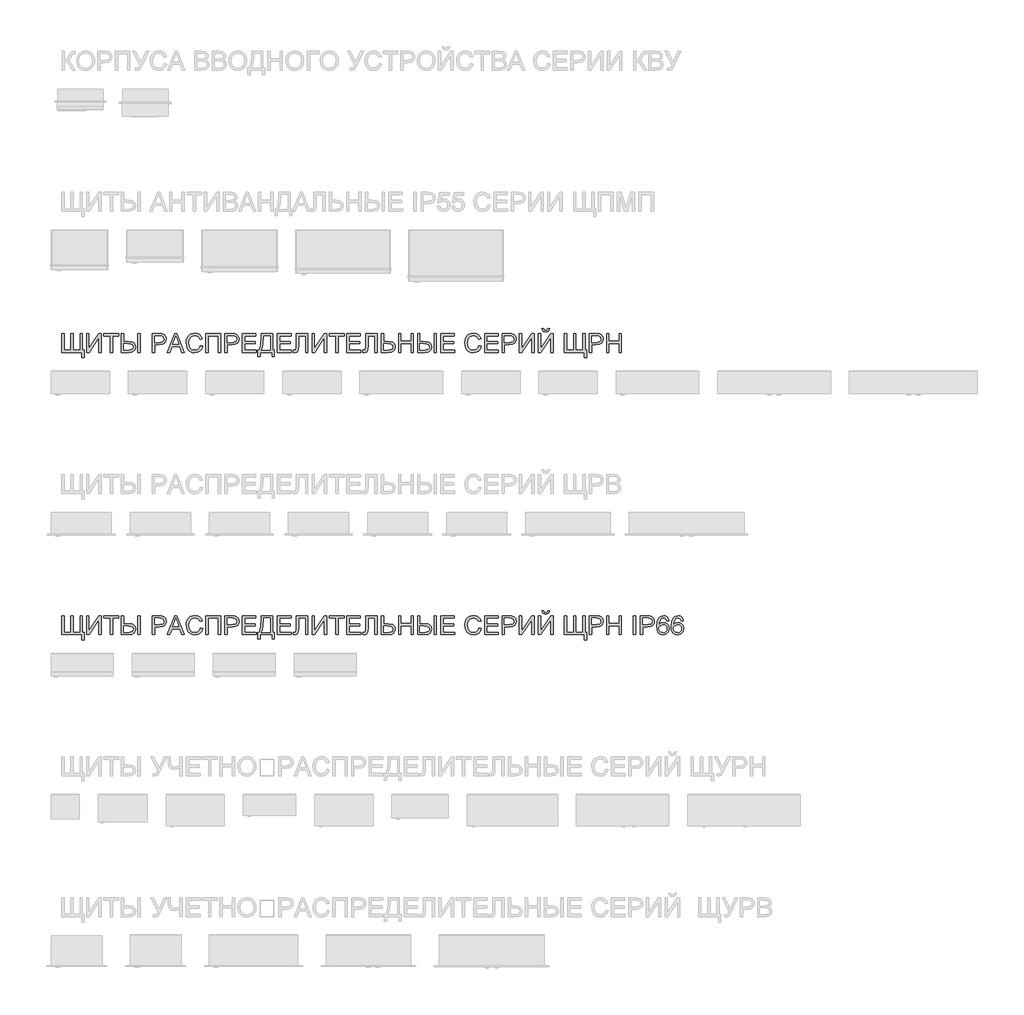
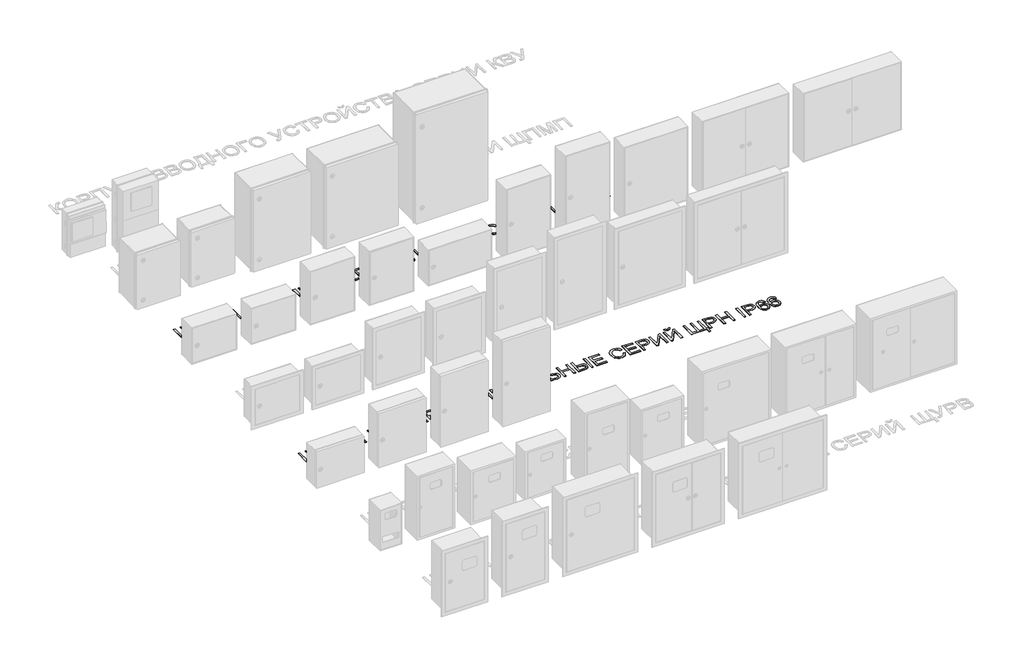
# One storey, part 12 of 25: 2 proxies.
"""IFC4 building model written with IfcOpenShell, lengths in millimetres."""

from ifc_helpers import new_model, si_unit, frame, origin, place, context, project, spatial, polyline, outline, extrude, element, save

model = new_model("IFC4")

# Units and contexts
model_context = context("Model", 3, world=origin())
ifc_project = project(units=[si_unit("LENGTHUNIT", "METRE", prefix="MILLI")], contexts=[model_context])

# Site, building, storey
site = spatial("IfcSite", under=ifc_project)
building = spatial("IfcBuilding", under=site)
storey = spatial("IfcBuildingStorey", under=building, Name="Этаж 01", Elevation=0.0)

# Proxies
placement = place(None, origin())
element("IfcBuildingElementProxy", 1, Name="Надпись на модели 1", ObjectType="Надпись на модели 1", at=placement, inside=storey, context=model_context, shape_type="SweptSolid", body=[
    extrude(outline(polyline([(-19039.6906686, 9886.6915941), (-19027.1336298, 9886.6915941), (-19027.1336298, 9798.7923228), (-18991.0321433, 9798.7923228), (-18991.0321433, 9886.6915941), (-18978.4751046, 9886.6915941), (-18978.4751046, 9798.7923228), (-18942.3736181, 9798.7923228), (-18942.3736181, 9886.6915941), (-18929.8165793, 9886.6915941), (-18929.8165793, 9798.7923228), (-18920.3988003, 9798.7923228), (-18920.3988003, 9757.9819468), (-18932.955839, 9757.9819468), (-18932.955839, 9786.235284), (-19039.6906686, 9786.235284), (-19039.6906686, 9886.6915941)])), frame((0.0, 0.0, 40.0), z_axis=(0.0, 0.0, 1.0), x_axis=(1.0, 0.0, 0.0)), (0.0, 0.0, 1.0), 2.0),
    extrude(outline(polyline([(-18907.8417615, 9886.6915941), (-18895.2847227, 9886.6915941), (-18895.2847227, 9807.1309813), (-18842.7021229, 9886.6915941), (-18829.3602692, 9886.6915941), (-18829.3602692, 9786.235284), (-18841.917308, 9786.235284), (-18841.917308, 9865.5751676), (-18894.3772805, 9786.235284), (-18907.8417615, 9786.235284), (-18907.8417615, 9886.6915941)])), frame((0.0, 0.0, 40.0), z_axis=(0.0, 0.0, 1.0), x_axis=(1.0, 0.0, 0.0)), (0.0, 0.0, 1.0), 2.0),
    extrude(outline(polyline([(-18782.2713738, 9786.235284), (-18782.2713738, 9874.1345554), (-18815.2336006, 9874.1345554), (-18815.2336006, 9886.6915941), (-18736.7521083, 9886.6915941), (-18736.7521083, 9874.1345554), (-18769.714335, 9874.1345554), (-18769.714335, 9786.235284), (-18782.2713738, 9786.235284)])), frame((0.0, 0.0, 40.0), z_axis=(0.0, 0.0, 1.0), x_axis=(1.0, 0.0, 0.0)), (0.0, 0.0, 1.0), 2.0),
    extrude(outline(polyline([(-18722.6254397, 9886.6915941), (-18710.0684009, 9886.6915941), (-18710.0684009, 9844.3115883), (-18685.935342, 9844.3115883), (-18666.2965748, 9842.1165591), (-18654.7634743, 9835.5314713), (-18649.1532739, 9826.1627432), (-18647.2832071, 9815.6167927), (-18649.2605728, 9804.6017926), (-18655.1926699, 9795.0521891), (-18666.4958443, 9788.4395103), (-18684.5864414, 9786.235284), (-18722.6254397, 9786.235284), (-18722.6254397, 9886.6915941)]), holes=[polyline([(-18710.0684009, 9798.7923228), (-18684.7090687, 9798.7923228), (-18665.7386205, 9802.777711), (-18661.3148395, 9807.9617815), (-18659.8402458, 9815.5432163), (-18663.4087012, 9825.5250811), (-18672.6302765, 9830.6509035), (-18691.5026229, 9831.7545495), (-18710.0684009, 9831.7545495), (-18710.0684009, 9798.7923228)])]), frame((0.0, 0.0, 40.0), z_axis=(0.0, 0.0, 1.0), x_axis=(1.0, 0.0, 0.0)), (0.0, 0.0, 1.0), 2.0),
    extrude(outline(polyline([(-18634.7261683, 9886.6915941), (-18622.1691295, 9886.6915941), (-18622.1691295, 9786.235284), (-18634.7261683, 9786.235284), (-18634.7261683, 9886.6915941)])), frame((0.0, 0.0, 40.0), z_axis=(0.0, 0.0, 1.0), x_axis=(1.0, 0.0, 0.0)), (0.0, 0.0, 1.0), 2.0),
    extrude(outline(polyline([(-18559.3839357, 9786.235284), (-18559.3839357, 9886.6915941), (-18522.1542778, 9886.6915941), (-18507.1446924, 9885.735101), (-18494.9432728, 9881.0384742), (-18487.03381, 9871.3263895), (-18484.0417031, 9857.6289165), (-18486.0619883, 9845.7892476), (-18492.1228442, 9835.9238788), (-18503.4566754, 9829.2652147), (-18521.2958864, 9827.04566), (-18546.8268969, 9827.04566), (-18546.8268969, 9786.235284), (-18559.3839357, 9786.235284)]), holes=[polyline([(-18546.8268969, 9839.6026988), (-18520.5601224, 9839.6026988), (-18502.0679208, 9844.2134864), (-18497.9660366, 9849.7623732), (-18496.5987418, 9857.1874581), (-18499.8238407, 9867.5862559), (-18508.2973893, 9873.2761641), (-18520.854428, 9874.1345554), (-18546.8268969, 9874.1345554), (-18546.8268969, 9839.6026988)])]), frame((0.0, 0.0, 40.0), z_axis=(0.0, 0.0, 1.0), x_axis=(1.0, 0.0, 0.0)), (0.0, 0.0, 1.0), 2.0),
    extrude(outline(polyline([(-18478.4744222, 9786.235284), (-18438.3752847, 9886.6915941), (-18427.6821814, 9886.6915941), (-18387.5830439, 9786.235284), (-18400.8513212, 9786.235284), (-18412.3537649, 9817.6278809), (-18453.7282267, 9817.6278809), (-18465.2061449, 9786.235284), (-18478.4744222, 9786.235284)]), holes=[polyline([(-18449.117439, 9830.1849197), (-18416.9400271, 9830.1849197), (-18425.9899242, 9854.8820643), (-18433.0287331, 9874.1345554), (-18439.282727, 9857.0403053), (-18449.117439, 9830.1849197)])]), frame((0.0, 0.0, 40.0), z_axis=(0.0, 0.0, 1.0), x_axis=(1.0, 0.0, 0.0)), (0.0, 0.0, 1.0), 2.0),
    extrude(outline(polyline([(-18303.5342708, 9821.944363), (-18290.977232, 9818.7070014), (-18296.7713734, 9804.0744951), (-18305.8641901, 9793.3844574), (-18317.8080922, 9786.845355), (-18332.15549, 9784.6656541), (-18346.7205513, 9786.3149918), (-18358.2873744, 9791.2630046), (-18367.1533305, 9799.3380144), (-18373.6157908, 9810.3683429), (-18378.8765034, 9837.2237285), (-18377.389647, 9851.8715633), (-18372.9290778, 9864.5205726), (-18365.7277877, 9874.7691518), (-18356.0187687, 9882.2156965), (-18344.5040623, 9886.7498421), (-18331.8857099, 9888.261224), (-18318.1177262, 9886.305318), (-18306.7348441, 9880.4376002), (-18298.0926829, 9871.0198211), (-18292.5468618, 9858.4137314), (-18305.1039006, 9855.4216246), (-18315.4045965, 9870.8604056), (-18332.3762192, 9875.7041852), (-18352.0211177, 9870.3331081), (-18363.1188912, 9855.9121339), (-18366.3194646, 9837.248254), (-18362.5302801, 9815.6167927), (-18350.7335307, 9801.7966924), (-18333.4062888, 9797.2226929), (-18322.9247176, 9798.78006), (-18314.1905859, 9803.4521614), (-18307.5963011, 9811.189946), (-18303.5342708, 9821.944363)])), frame((0.0, 0.0, 40.0), z_axis=(0.0, 0.0, 1.0), x_axis=(1.0, 0.0, 0.0)), (0.0, 0.0, 1.0), 2.0),
    extrude(outline(polyline([(-18273.7113037, 9886.6915941), (-18195.2298114, 9886.6915941), (-18195.2298114, 9786.235284), (-18207.7868501, 9786.235284), (-18207.7868501, 9874.1345554), (-18261.1542649, 9874.1345554), (-18261.1542649, 9786.235284), (-18273.7113037, 9786.235284), (-18273.7113037, 9886.6915941)])), frame((0.0, 0.0, 40.0), z_axis=(0.0, 0.0, 1.0), x_axis=(1.0, 0.0, 0.0)), (0.0, 0.0, 1.0), 2.0),
    extrude(outline(polyline([(-18173.2549935, 9786.235284), (-18173.2549935, 9886.6915941), (-18136.0253356, 9886.6915941), (-18121.0157502, 9885.735101), (-18108.8143307, 9881.0384742), (-18100.9048678, 9871.3263895), (-18097.9127609, 9857.6289165), (-18099.9330462, 9845.7892476), (-18105.9939021, 9835.9238788), (-18117.3277332, 9829.2652147), (-18135.1669443, 9827.04566), (-18160.6979548, 9827.04566), (-18160.6979548, 9786.235284), (-18173.2549935, 9786.235284)]), holes=[polyline([(-18160.6979548, 9839.6026988), (-18134.4311803, 9839.6026988), (-18115.9389787, 9844.2134864), (-18111.8370944, 9849.7623732), (-18110.4697997, 9857.1874581), (-18113.6948985, 9867.5862559), (-18122.1684471, 9873.2761641), (-18134.7254859, 9874.1345554), (-18160.6979548, 9874.1345554), (-18160.6979548, 9839.6026988)])]), frame((0.0, 0.0, 40.0), z_axis=(0.0, 0.0, 1.0), x_axis=(1.0, 0.0, 0.0)), (0.0, 0.0, 1.0), 2.0),
    extrude(outline(polyline([(-18080.6468326, 9786.235284), (-18080.6468326, 9886.6915941), (-18008.4438597, 9886.6915941), (-18008.4438597, 9874.1345554), (-18068.0897938, 9874.1345554), (-18068.0897938, 9844.3115883), (-18011.5831194, 9844.3115883), (-18011.5831194, 9831.7545495), (-18068.0897938, 9831.7545495), (-18068.0897938, 9798.7923228), (-18006.8742298, 9798.7923228), (-18006.8742298, 9786.235284), (-18080.6468326, 9786.235284)])), frame((0.0, 0.0, 40.0), z_axis=(0.0, 0.0, 1.0), x_axis=(1.0, 0.0, 0.0)), (0.0, 0.0, 1.0), 2.0),
    extrude(outline(polyline([(-17978.6208926, 9886.6915941), (-17918.9749585, 9886.6915941), (-17918.9749585, 9798.7923228), (-17909.5571794, 9798.7923228), (-17909.5571794, 9762.6908363), (-17922.1142182, 9762.6908363), (-17922.1142182, 9786.235284), (-17986.4690418, 9786.235284), (-17986.4690418, 9762.6908363), (-17999.0260806, 9762.6908363), (-17999.0260806, 9798.7923228), (-17991.1779314, 9798.7923228), (-17981.7601523, 9826.2056628), (-17978.6208926, 9872.1479926), (-17978.6208926, 9886.6915941)]), holes=[polyline([(-17931.5319972, 9874.1345554), (-17966.0638538, 9874.1345554), (-17966.0638538, 9869.0823093), (-17968.6145023, 9834.67308), (-17972.3914242, 9814.7890582), (-17978.6208926, 9798.7923228), (-17931.5319972, 9798.7923228), (-17931.5319972, 9874.1345554)])]), frame((0.0, 0.0, 40.0), z_axis=(0.0, 0.0, 1.0), x_axis=(1.0, 0.0, 0.0)), (0.0, 0.0, 1.0), 2.0),
    extrude(outline(polyline([(-17893.8608809, 9786.235284), (-17893.8608809, 9886.6915941), (-17821.657908, 9886.6915941), (-17821.657908, 9874.1345554), (-17881.3038422, 9874.1345554), (-17881.3038422, 9844.3115883), (-17824.7971677, 9844.3115883), (-17824.7971677, 9831.7545495), (-17881.3038422, 9831.7545495), (-17881.3038422, 9798.7923228), (-17820.0882782, 9798.7923228), (-17820.0882782, 9786.235284), (-17893.8608809, 9786.235284)])), frame((0.0, 0.0, 40.0), z_axis=(0.0, 0.0, 1.0), x_axis=(1.0, 0.0, 0.0)), (0.0, 0.0, 1.0), 2.0),
    extrude(outline(polyline([(-17793.4045708, 9886.6915941), (-17732.1890068, 9886.6915941), (-17732.1890068, 9786.235284), (-17744.7460456, 9786.235284), (-17744.7460456, 9874.1345554), (-17780.847532, 9874.1345554), (-17780.847532, 9822.8763307), (-17782.3067973, 9800.0063333), (-17788.4259011, 9788.7000934), (-17800.2471759, 9784.6656541), (-17810.6704991, 9786.235284), (-17809.1008692, 9798.7923228), (-17803.09213, 9797.2226929), (-17795.8203292, 9800.5949445), (-17793.4045708, 9816.475184), (-17793.4045708, 9886.6915941)])), frame((0.0, 0.0, 40.0), z_axis=(0.0, 0.0, 1.0), x_axis=(1.0, 0.0, 0.0)), (0.0, 0.0, 1.0), 2.0),
    extrude(outline(polyline([(-17710.2141889, 9886.6915941), (-17697.6571502, 9886.6915941), (-17697.6571502, 9807.1309813), (-17645.0745503, 9886.6915941), (-17631.7326966, 9886.6915941), (-17631.7326966, 9786.235284), (-17644.2897354, 9786.235284), (-17644.2897354, 9865.5751676), (-17696.7497079, 9786.235284), (-17710.2141889, 9786.235284), (-17710.2141889, 9886.6915941)])), frame((0.0, 0.0, 40.0), z_axis=(0.0, 0.0, 1.0), x_axis=(1.0, 0.0, 0.0)), (0.0, 0.0, 1.0), 2.0),
    extrude(outline(polyline([(-17584.6438013, 9786.235284), (-17584.6438013, 9874.1345554), (-17617.606028, 9874.1345554), (-17617.606028, 9886.6915941), (-17539.1245357, 9886.6915941), (-17539.1245357, 9874.1345554), (-17572.0867625, 9874.1345554), (-17572.0867625, 9786.235284), (-17584.6438013, 9786.235284)])), frame((0.0, 0.0, 40.0), z_axis=(0.0, 0.0, 1.0), x_axis=(1.0, 0.0, 0.0)), (0.0, 0.0, 1.0), 2.0),
    extrude(outline(polyline([(-17524.9978671, 9786.235284), (-17524.9978671, 9886.6915941), (-17452.7948942, 9886.6915941), (-17452.7948942, 9874.1345554), (-17512.4408283, 9874.1345554), (-17512.4408283, 9844.3115883), (-17455.9341539, 9844.3115883), (-17455.9341539, 9831.7545495), (-17512.4408283, 9831.7545495), (-17512.4408283, 9798.7923228), (-17451.2252643, 9798.7923228), (-17451.2252643, 9786.235284), (-17524.9978671, 9786.235284)])), frame((0.0, 0.0, 40.0), z_axis=(0.0, 0.0, 1.0), x_axis=(1.0, 0.0, 0.0)), (0.0, 0.0, 1.0), 2.0),
    extrude(outline(polyline([(-17424.5415569, 9886.6915941), (-17363.325993, 9886.6915941), (-17363.325993, 9786.235284), (-17375.8830317, 9786.235284), (-17375.8830317, 9874.1345554), (-17411.9845182, 9874.1345554), (-17411.9845182, 9822.8763307), (-17413.4437834, 9800.0063333), (-17419.5628873, 9788.7000934), (-17431.3841621, 9784.6656541), (-17441.8074853, 9786.235284), (-17440.2378554, 9798.7923228), (-17434.2291162, 9797.2226929), (-17426.9573154, 9800.5949445), (-17424.5415569, 9816.475184), (-17424.5415569, 9886.6915941)])), frame((0.0, 0.0, 40.0), z_axis=(0.0, 0.0, 1.0), x_axis=(1.0, 0.0, 0.0)), (0.0, 0.0, 1.0), 2.0),
    extrude(outline(polyline([(-17341.3511751, 9886.6915941), (-17328.7941363, 9886.6915941), (-17328.7941363, 9844.3115883), (-17305.2742141, 9844.3115883), (-17281.4231981, 9840.375251), (-17270.8036712, 9829.6576222), (-17267.5785723, 9815.6903691), (-17269.5160842, 9804.666172), (-17275.3286197, 9795.0889773), (-17286.4141305, 9788.4487073), (-17304.1705681, 9786.235284), (-17341.3511751, 9786.235284), (-17341.3511751, 9886.6915941)]), holes=[polyline([(-17328.7941363, 9798.7923228), (-17304.1950936, 9798.7923228), (-17291.8219958, 9800.0339245), (-17284.6728224, 9803.7587297), (-17280.1356111, 9815.73942), (-17283.4220236, 9825.4269792), (-17292.1898778, 9830.5895899), (-17310.7679186, 9831.7545495), (-17328.7941363, 9831.7545495), (-17328.7941363, 9798.7923228)])]), frame((0.0, 0.0, 40.0), z_axis=(0.0, 0.0, 1.0), x_axis=(1.0, 0.0, 0.0)), (0.0, 0.0, 1.0), 2.0),
    extrude(outline(polyline([(-17250.312644, 9786.235284), (-17250.312644, 9886.6915941), (-17237.7556053, 9886.6915941), (-17237.7556053, 9845.8812181), (-17184.3881905, 9845.8812181), (-17184.3881905, 9886.6915941), (-17171.8311517, 9886.6915941), (-17171.8311517, 9786.235284), (-17184.3881905, 9786.235284), (-17184.3881905, 9833.3241794), (-17237.7556053, 9833.3241794), (-17237.7556053, 9786.235284), (-17250.312644, 9786.235284)])), frame((0.0, 0.0, 40.0), z_axis=(0.0, 0.0, 1.0), x_axis=(1.0, 0.0, 0.0)), (0.0, 0.0, 1.0), 2.0),
    extrude(outline(polyline([(-17149.8563339, 9886.6915941), (-17137.2992951, 9886.6915941), (-17137.2992951, 9844.3115883), (-17113.1662362, 9844.3115883), (-17093.5274691, 9842.1165591), (-17081.9943685, 9835.5314713), (-17076.3841681, 9826.1627432), (-17074.5141013, 9815.6167927), (-17076.491467, 9804.6017926), (-17082.4235642, 9795.0521891), (-17093.7267385, 9788.4395103), (-17111.8173356, 9786.235284), (-17149.8563339, 9786.235284), (-17149.8563339, 9886.6915941)]), holes=[polyline([(-17137.2992951, 9798.7923228), (-17111.9399629, 9798.7923228), (-17092.9695147, 9802.777711), (-17088.5457337, 9807.9617815), (-17087.07114, 9815.5432163), (-17090.6395954, 9825.5250811), (-17099.8611707, 9830.6509035), (-17118.7335171, 9831.7545495), (-17137.2992951, 9831.7545495), (-17137.2992951, 9798.7923228)])]), frame((0.0, 0.0, 40.0), z_axis=(0.0, 0.0, 1.0), x_axis=(1.0, 0.0, 0.0)), (0.0, 0.0, 1.0), 2.0),
    extrude(outline(polyline([(-17061.9570625, 9886.6915941), (-17049.4000237, 9886.6915941), (-17049.4000237, 9786.235284), (-17061.9570625, 9786.235284), (-17061.9570625, 9886.6915941)])), frame((0.0, 0.0, 40.0), z_axis=(0.0, 0.0, 1.0), x_axis=(1.0, 0.0, 0.0)), (0.0, 0.0, 1.0), 2.0),
    extrude(outline(polyline([(-17025.855576, 9786.235284), (-17025.855576, 9886.6915941), (-16953.6526031, 9886.6915941), (-16953.6526031, 9874.1345554), (-17013.2985373, 9874.1345554), (-17013.2985373, 9844.3115883), (-16956.7918628, 9844.3115883), (-16956.7918628, 9831.7545495), (-17013.2985373, 9831.7545495), (-17013.2985373, 9798.7923228), (-16952.0829733, 9798.7923228), (-16952.0829733, 9786.235284), (-17025.855576, 9786.235284)])), frame((0.0, 0.0, 40.0), z_axis=(0.0, 0.0, 1.0), x_axis=(1.0, 0.0, 0.0)), (0.0, 0.0, 1.0), 2.0),
    extrude(outline(polyline([(-16823.3733259, 9821.944363), (-16810.8162871, 9818.7070014), (-16816.6104286, 9804.0744951), (-16825.7032452, 9793.3844574), (-16837.6471473, 9786.845355), (-16851.9945451, 9784.6656541), (-16866.5596064, 9786.3149918), (-16878.1264295, 9791.2630046), (-16886.9923856, 9799.3380144), (-16893.454846, 9810.3683429), (-16898.7155585, 9837.2237285), (-16897.2287021, 9851.8715633), (-16892.7681329, 9864.5205726), (-16885.5668429, 9874.7691518), (-16875.8578239, 9882.2156965), (-16864.3431174, 9886.7498421), (-16851.724765, 9888.261224), (-16837.9567813, 9886.305318), (-16826.5738993, 9880.4376002), (-16817.9317381, 9871.0198211), (-16812.385917, 9858.4137314), (-16824.9429557, 9855.4216246), (-16835.2436516, 9870.8604056), (-16852.2152743, 9875.7041852), (-16871.8601729, 9870.3331081), (-16882.9579464, 9855.9121339), (-16886.1585197, 9837.248254), (-16882.3693352, 9815.6167927), (-16870.5725859, 9801.7966924), (-16853.2453439, 9797.2226929), (-16842.7637727, 9798.78006), (-16834.029641, 9803.4521614), (-16827.4353563, 9811.189946), (-16823.3733259, 9821.944363)])), frame((0.0, 0.0, 40.0), z_axis=(0.0, 0.0, 1.0), x_axis=(1.0, 0.0, 0.0)), (0.0, 0.0, 1.0), 2.0),
    extrude(outline(polyline([(-16793.5503588, 9786.235284), (-16793.5503588, 9886.6915941), (-16721.3473859, 9886.6915941), (-16721.3473859, 9874.1345554), (-16780.9933201, 9874.1345554), (-16780.9933201, 9844.3115883), (-16724.4866456, 9844.3115883), (-16724.4866456, 9831.7545495), (-16780.9933201, 9831.7545495), (-16780.9933201, 9798.7923228), (-16719.7777561, 9798.7923228), (-16719.7777561, 9786.235284), (-16793.5503588, 9786.235284)])), frame((0.0, 0.0, 40.0), z_axis=(0.0, 0.0, 1.0), x_axis=(1.0, 0.0, 0.0)), (0.0, 0.0, 1.0), 2.0),
    extrude(outline(polyline([(-16700.9421979, 9786.235284), (-16700.9421979, 9886.6915941), (-16663.71254, 9886.6915941), (-16648.7029546, 9885.735101), (-16636.5015351, 9881.0384742), (-16628.5920722, 9871.3263895), (-16625.5999653, 9857.6289165), (-16627.6202506, 9845.7892476), (-16633.6811065, 9835.9238788), (-16645.0149376, 9829.2652147), (-16662.8541487, 9827.04566), (-16688.3851591, 9827.04566), (-16688.3851591, 9786.235284), (-16700.9421979, 9786.235284)]), holes=[polyline([(-16688.3851591, 9839.6026988), (-16662.1183847, 9839.6026988), (-16643.6261831, 9844.2134864), (-16639.5242988, 9849.7623732), (-16638.1570041, 9857.1874581), (-16641.3821029, 9867.5862559), (-16649.8556515, 9873.2761641), (-16662.4126903, 9874.1345554), (-16688.3851591, 9874.1345554), (-16688.3851591, 9839.6026988)])]), frame((0.0, 0.0, 40.0), z_axis=(0.0, 0.0, 1.0), x_axis=(1.0, 0.0, 0.0)), (0.0, 0.0, 1.0), 2.0),
    extrude(outline(polyline([(-16608.334037, 9886.6915941), (-16595.7769982, 9886.6915941), (-16595.7769982, 9807.1309813), (-16543.1943984, 9886.6915941), (-16529.8525447, 9886.6915941), (-16529.8525447, 9786.235284), (-16542.4095834, 9786.235284), (-16542.4095834, 9865.5751676), (-16594.869556, 9786.235284), (-16608.334037, 9786.235284), (-16608.334037, 9886.6915941)])), frame((0.0, 0.0, 40.0), z_axis=(0.0, 0.0, 1.0), x_axis=(1.0, 0.0, 0.0)), (0.0, 0.0, 1.0), 2.0),
    extrude(outline(polyline([(-16507.8777268, 9886.6915941), (-16495.3206881, 9886.6915941), (-16495.3206881, 9807.1309813), (-16442.7380882, 9886.6915941), (-16429.3962345, 9886.6915941), (-16429.3962345, 9786.235284), (-16441.9532733, 9786.235284), (-16441.9532733, 9865.5751676), (-16494.4132458, 9786.235284), (-16507.8777268, 9786.235284), (-16507.8777268, 9886.6915941)])), frame((0.0, 0.0, 40.0), z_axis=(0.0, 0.0, 1.0), x_axis=(1.0, 0.0, 0.0)), (0.0, 0.0, 1.0), 2.0),
    extrude(outline(polyline([(-16457.6495718, 9911.8056717), (-16448.2317927, 9911.8056717), (-16454.3263711, 9897.8384186), (-16467.8521658, 9892.9701135), (-16482.4938692, 9897.8016304), (-16489.0421687, 9911.8056717), (-16479.6243896, 9911.8056717), (-16476.0927225, 9904.7300746), (-16468.9803372, 9902.3878926), (-16461.1812389, 9904.6564982), (-16457.6495718, 9911.8056717)])), frame((0.0, 0.0, 40.0), z_axis=(0.0, 0.0, 1.0), x_axis=(1.0, 0.0, 0.0)), (0.0, 0.0, 1.0), 2.0),
    extrude(outline(polyline([(-16369.7503004, 9886.6915941), (-16357.1932616, 9886.6915941), (-16357.1932616, 9798.7923228), (-16321.0917752, 9798.7923228), (-16321.0917752, 9886.6915941), (-16308.5347364, 9886.6915941), (-16308.5347364, 9798.7923228), (-16272.4332499, 9798.7923228), (-16272.4332499, 9886.6915941), (-16259.8762112, 9886.6915941), (-16259.8762112, 9798.7923228), (-16250.4584321, 9798.7923228), (-16250.4584321, 9757.9819468), (-16263.0154708, 9757.9819468), (-16263.0154708, 9786.235284), (-16369.7503004, 9786.235284), (-16369.7503004, 9886.6915941)])), frame((0.0, 0.0, 40.0), z_axis=(0.0, 0.0, 1.0), x_axis=(1.0, 0.0, 0.0)), (0.0, 0.0, 1.0), 2.0),
    extrude(outline(polyline([(-16237.9013933, 9786.235284), (-16237.9013933, 9886.6915941), (-16200.6717354, 9886.6915941), (-16185.66215, 9885.735101), (-16173.4607305, 9881.0384742), (-16165.5512676, 9871.3263895), (-16162.5591607, 9857.6289165), (-16164.579446, 9845.7892476), (-16170.6403019, 9835.9238788), (-16181.974133, 9829.2652147), (-16199.8133441, 9827.04566), (-16225.3443545, 9827.04566), (-16225.3443545, 9786.235284), (-16237.9013933, 9786.235284)]), holes=[polyline([(-16225.3443545, 9839.6026988), (-16199.0775801, 9839.6026988), (-16180.5853785, 9844.2134864), (-16176.4834942, 9849.7623732), (-16175.1161995, 9857.1874581), (-16178.3412983, 9867.5862559), (-16186.8148469, 9873.2761641), (-16199.3718857, 9874.1345554), (-16225.3443545, 9874.1345554), (-16225.3443545, 9839.6026988)])]), frame((0.0, 0.0, 40.0), z_axis=(0.0, 0.0, 1.0), x_axis=(1.0, 0.0, 0.0)), (0.0, 0.0, 1.0), 2.0),
    extrude(outline(polyline([(-16145.2932324, 9786.235284), (-16145.2932324, 9886.6915941), (-16132.7361936, 9886.6915941), (-16132.7361936, 9845.8812181), (-16079.3687789, 9845.8812181), (-16079.3687789, 9886.6915941), (-16066.8117401, 9886.6915941), (-16066.8117401, 9786.235284), (-16079.3687789, 9786.235284), (-16079.3687789, 9833.3241794), (-16132.7361936, 9833.3241794), (-16132.7361936, 9786.235284), (-16145.2932324, 9786.235284)])), frame((0.0, 0.0, 40.0), z_axis=(0.0, 0.0, 1.0), x_axis=(1.0, 0.0, 0.0)), (0.0, 0.0, 1.0), 2.0),
])
element("IfcBuildingElementProxy", 2, Name="Надпись на модели 1", ObjectType="Надпись на модели 1", at=placement, inside=storey, context=model_context, shape_type="SweptSolid", body=[
    extrude(outline(polyline([(-19039.6906686, 8386.6915941), (-19027.1336298, 8386.6915941), (-19027.1336298, 8298.7923228), (-18991.0321433, 8298.7923228), (-18991.0321433, 8386.6915941), (-18978.4751046, 8386.6915941), (-18978.4751046, 8298.7923228), (-18942.3736181, 8298.7923228), (-18942.3736181, 8386.6915941), (-18929.8165793, 8386.6915941), (-18929.8165793, 8298.7923228), (-18920.3988003, 8298.7923228), (-18920.3988003, 8257.9819468), (-18932.955839, 8257.9819468), (-18932.955839, 8286.235284), (-19039.6906686, 8286.235284), (-19039.6906686, 8386.6915941)])), frame((0.0, 0.0, 40.0), z_axis=(0.0, 0.0, 1.0), x_axis=(1.0, 0.0, 0.0)), (0.0, 0.0, 1.0), 2.0),
    extrude(outline(polyline([(-18907.8417615, 8386.6915941), (-18895.2847227, 8386.6915941), (-18895.2847227, 8307.1309813), (-18842.7021229, 8386.6915941), (-18829.3602692, 8386.6915941), (-18829.3602692, 8286.235284), (-18841.917308, 8286.235284), (-18841.917308, 8365.5751676), (-18894.3772805, 8286.235284), (-18907.8417615, 8286.235284), (-18907.8417615, 8386.6915941)])), frame((0.0, 0.0, 40.0), z_axis=(0.0, 0.0, 1.0), x_axis=(1.0, 0.0, 0.0)), (0.0, 0.0, 1.0), 2.0),
    extrude(outline(polyline([(-18782.2713738, 8286.235284), (-18782.2713738, 8374.1345554), (-18815.2336006, 8374.1345554), (-18815.2336006, 8386.6915941), (-18736.7521083, 8386.6915941), (-18736.7521083, 8374.1345554), (-18769.714335, 8374.1345554), (-18769.714335, 8286.235284), (-18782.2713738, 8286.235284)])), frame((0.0, 0.0, 40.0), z_axis=(0.0, 0.0, 1.0), x_axis=(1.0, 0.0, 0.0)), (0.0, 0.0, 1.0), 2.0),
    extrude(outline(polyline([(-18722.6254397, 8386.6915941), (-18710.0684009, 8386.6915941), (-18710.0684009, 8344.3115883), (-18685.935342, 8344.3115883), (-18666.2965748, 8342.1165591), (-18654.7634743, 8335.5314713), (-18649.1532739, 8326.1627432), (-18647.2832071, 8315.6167927), (-18649.2605728, 8304.6017926), (-18655.1926699, 8295.0521891), (-18666.4958443, 8288.4395103), (-18684.5864414, 8286.235284), (-18722.6254397, 8286.235284), (-18722.6254397, 8386.6915941)]), holes=[polyline([(-18710.0684009, 8298.7923228), (-18684.7090687, 8298.7923228), (-18665.7386205, 8302.777711), (-18661.3148395, 8307.9617815), (-18659.8402458, 8315.5432163), (-18663.4087012, 8325.5250811), (-18672.6302765, 8330.6509035), (-18691.5026229, 8331.7545495), (-18710.0684009, 8331.7545495), (-18710.0684009, 8298.7923228)])]), frame((0.0, 0.0, 40.0), z_axis=(0.0, 0.0, 1.0), x_axis=(1.0, 0.0, 0.0)), (0.0, 0.0, 1.0), 2.0),
    extrude(outline(polyline([(-18634.7261683, 8386.6915941), (-18622.1691295, 8386.6915941), (-18622.1691295, 8286.235284), (-18634.7261683, 8286.235284), (-18634.7261683, 8386.6915941)])), frame((0.0, 0.0, 40.0), z_axis=(0.0, 0.0, 1.0), x_axis=(1.0, 0.0, 0.0)), (0.0, 0.0, 1.0), 2.0),
    extrude(outline(polyline([(-18559.3839357, 8286.235284), (-18559.3839357, 8386.6915941), (-18522.1542778, 8386.6915941), (-18507.1446924, 8385.735101), (-18494.9432728, 8381.0384742), (-18487.03381, 8371.3263895), (-18484.0417031, 8357.6289165), (-18486.0619883, 8345.7892476), (-18492.1228442, 8335.9238788), (-18503.4566754, 8329.2652147), (-18521.2958864, 8327.04566), (-18546.8268969, 8327.04566), (-18546.8268969, 8286.235284), (-18559.3839357, 8286.235284)]), holes=[polyline([(-18546.8268969, 8339.6026988), (-18520.5601224, 8339.6026988), (-18502.0679208, 8344.2134864), (-18497.9660366, 8349.7623732), (-18496.5987418, 8357.1874581), (-18499.8238407, 8367.5862559), (-18508.2973893, 8373.2761641), (-18520.854428, 8374.1345554), (-18546.8268969, 8374.1345554), (-18546.8268969, 8339.6026988)])]), frame((0.0, 0.0, 40.0), z_axis=(0.0, 0.0, 1.0), x_axis=(1.0, 0.0, 0.0)), (0.0, 0.0, 1.0), 2.0),
    extrude(outline(polyline([(-18478.4744222, 8286.235284), (-18438.3752847, 8386.6915941), (-18427.6821814, 8386.6915941), (-18387.5830439, 8286.235284), (-18400.8513212, 8286.235284), (-18412.3537649, 8317.6278809), (-18453.7282267, 8317.6278809), (-18465.2061449, 8286.235284), (-18478.4744222, 8286.235284)]), holes=[polyline([(-18449.117439, 8330.1849197), (-18416.9400271, 8330.1849197), (-18425.9899242, 8354.8820643), (-18433.0287331, 8374.1345554), (-18439.282727, 8357.0403053), (-18449.117439, 8330.1849197)])]), frame((0.0, 0.0, 40.0), z_axis=(0.0, 0.0, 1.0), x_axis=(1.0, 0.0, 0.0)), (0.0, 0.0, 1.0), 2.0),
    extrude(outline(polyline([(-18303.5342708, 8321.944363), (-18290.977232, 8318.7070014), (-18296.7713734, 8304.0744951), (-18305.8641901, 8293.3844574), (-18317.8080922, 8286.845355), (-18332.15549, 8284.6656541), (-18346.7205513, 8286.3149918), (-18358.2873744, 8291.2630046), (-18367.1533305, 8299.3380144), (-18373.6157908, 8310.3683429), (-18378.8765034, 8337.2237285), (-18377.389647, 8351.8715633), (-18372.9290778, 8364.5205726), (-18365.7277877, 8374.7691518), (-18356.0187687, 8382.2156965), (-18344.5040623, 8386.7498421), (-18331.8857099, 8388.261224), (-18318.1177262, 8386.305318), (-18306.7348441, 8380.4376002), (-18298.0926829, 8371.0198211), (-18292.5468618, 8358.4137314), (-18305.1039006, 8355.4216246), (-18315.4045965, 8370.8604056), (-18332.3762192, 8375.7041852), (-18352.0211177, 8370.3331081), (-18363.1188912, 8355.9121339), (-18366.3194646, 8337.248254), (-18362.5302801, 8315.6167927), (-18350.7335307, 8301.7966924), (-18333.4062888, 8297.2226929), (-18322.9247176, 8298.78006), (-18314.1905859, 8303.4521614), (-18307.5963011, 8311.189946), (-18303.5342708, 8321.944363)])), frame((0.0, 0.0, 40.0), z_axis=(0.0, 0.0, 1.0), x_axis=(1.0, 0.0, 0.0)), (0.0, 0.0, 1.0), 2.0),
    extrude(outline(polyline([(-18273.7113037, 8386.6915941), (-18195.2298114, 8386.6915941), (-18195.2298114, 8286.235284), (-18207.7868501, 8286.235284), (-18207.7868501, 8374.1345554), (-18261.1542649, 8374.1345554), (-18261.1542649, 8286.235284), (-18273.7113037, 8286.235284), (-18273.7113037, 8386.6915941)])), frame((0.0, 0.0, 40.0), z_axis=(0.0, 0.0, 1.0), x_axis=(1.0, 0.0, 0.0)), (0.0, 0.0, 1.0), 2.0),
    extrude(outline(polyline([(-18173.2549935, 8286.235284), (-18173.2549935, 8386.6915941), (-18136.0253356, 8386.6915941), (-18121.0157502, 8385.735101), (-18108.8143307, 8381.0384742), (-18100.9048678, 8371.3263895), (-18097.9127609, 8357.6289165), (-18099.9330462, 8345.7892476), (-18105.9939021, 8335.9238788), (-18117.3277332, 8329.2652147), (-18135.1669443, 8327.04566), (-18160.6979548, 8327.04566), (-18160.6979548, 8286.235284), (-18173.2549935, 8286.235284)]), holes=[polyline([(-18160.6979548, 8339.6026988), (-18134.4311803, 8339.6026988), (-18115.9389787, 8344.2134864), (-18111.8370944, 8349.7623732), (-18110.4697997, 8357.1874581), (-18113.6948985, 8367.5862559), (-18122.1684471, 8373.2761641), (-18134.7254859, 8374.1345554), (-18160.6979548, 8374.1345554), (-18160.6979548, 8339.6026988)])]), frame((0.0, 0.0, 40.0), z_axis=(0.0, 0.0, 1.0), x_axis=(1.0, 0.0, 0.0)), (0.0, 0.0, 1.0), 2.0),
    extrude(outline(polyline([(-18080.6468326, 8286.235284), (-18080.6468326, 8386.6915941), (-18008.4438597, 8386.6915941), (-18008.4438597, 8374.1345554), (-18068.0897938, 8374.1345554), (-18068.0897938, 8344.3115883), (-18011.5831194, 8344.3115883), (-18011.5831194, 8331.7545495), (-18068.0897938, 8331.7545495), (-18068.0897938, 8298.7923228), (-18006.8742298, 8298.7923228), (-18006.8742298, 8286.235284), (-18080.6468326, 8286.235284)])), frame((0.0, 0.0, 40.0), z_axis=(0.0, 0.0, 1.0), x_axis=(1.0, 0.0, 0.0)), (0.0, 0.0, 1.0), 2.0),
    extrude(outline(polyline([(-17978.6208926, 8386.6915941), (-17918.9749585, 8386.6915941), (-17918.9749585, 8298.7923228), (-17909.5571794, 8298.7923228), (-17909.5571794, 8262.6908363), (-17922.1142182, 8262.6908363), (-17922.1142182, 8286.235284), (-17986.4690418, 8286.235284), (-17986.4690418, 8262.6908363), (-17999.0260806, 8262.6908363), (-17999.0260806, 8298.7923228), (-17991.1779314, 8298.7923228), (-17981.7601523, 8326.2056628), (-17978.6208926, 8372.1479926), (-17978.6208926, 8386.6915941)]), holes=[polyline([(-17931.5319972, 8374.1345554), (-17966.0638538, 8374.1345554), (-17966.0638538, 8369.0823093), (-17968.6145023, 8334.67308), (-17972.3914242, 8314.7890582), (-17978.6208926, 8298.7923228), (-17931.5319972, 8298.7923228), (-17931.5319972, 8374.1345554)])]), frame((0.0, 0.0, 40.0), z_axis=(0.0, 0.0, 1.0), x_axis=(1.0, 0.0, 0.0)), (0.0, 0.0, 1.0), 2.0),
    extrude(outline(polyline([(-17893.8608809, 8286.235284), (-17893.8608809, 8386.6915941), (-17821.657908, 8386.6915941), (-17821.657908, 8374.1345554), (-17881.3038422, 8374.1345554), (-17881.3038422, 8344.3115883), (-17824.7971677, 8344.3115883), (-17824.7971677, 8331.7545495), (-17881.3038422, 8331.7545495), (-17881.3038422, 8298.7923228), (-17820.0882782, 8298.7923228), (-17820.0882782, 8286.235284), (-17893.8608809, 8286.235284)])), frame((0.0, 0.0, 40.0), z_axis=(0.0, 0.0, 1.0), x_axis=(1.0, 0.0, 0.0)), (0.0, 0.0, 1.0), 2.0),
    extrude(outline(polyline([(-17793.4045708, 8386.6915941), (-17732.1890068, 8386.6915941), (-17732.1890068, 8286.235284), (-17744.7460456, 8286.235284), (-17744.7460456, 8374.1345554), (-17780.847532, 8374.1345554), (-17780.847532, 8322.8763307), (-17782.3067973, 8300.0063333), (-17788.4259011, 8288.7000934), (-17800.2471759, 8284.6656541), (-17810.6704991, 8286.235284), (-17809.1008692, 8298.7923228), (-17803.09213, 8297.2226929), (-17795.8203292, 8300.5949445), (-17793.4045708, 8316.475184), (-17793.4045708, 8386.6915941)])), frame((0.0, 0.0, 40.0), z_axis=(0.0, 0.0, 1.0), x_axis=(1.0, 0.0, 0.0)), (0.0, 0.0, 1.0), 2.0),
    extrude(outline(polyline([(-17710.2141889, 8386.6915941), (-17697.6571502, 8386.6915941), (-17697.6571502, 8307.1309813), (-17645.0745503, 8386.6915941), (-17631.7326966, 8386.6915941), (-17631.7326966, 8286.235284), (-17644.2897354, 8286.235284), (-17644.2897354, 8365.5751676), (-17696.7497079, 8286.235284), (-17710.2141889, 8286.235284), (-17710.2141889, 8386.6915941)])), frame((0.0, 0.0, 40.0), z_axis=(0.0, 0.0, 1.0), x_axis=(1.0, 0.0, 0.0)), (0.0, 0.0, 1.0), 2.0),
    extrude(outline(polyline([(-17584.6438013, 8286.235284), (-17584.6438013, 8374.1345554), (-17617.606028, 8374.1345554), (-17617.606028, 8386.6915941), (-17539.1245357, 8386.6915941), (-17539.1245357, 8374.1345554), (-17572.0867625, 8374.1345554), (-17572.0867625, 8286.235284), (-17584.6438013, 8286.235284)])), frame((0.0, 0.0, 40.0), z_axis=(0.0, 0.0, 1.0), x_axis=(1.0, 0.0, 0.0)), (0.0, 0.0, 1.0), 2.0),
    extrude(outline(polyline([(-17524.9978671, 8286.235284), (-17524.9978671, 8386.6915941), (-17452.7948942, 8386.6915941), (-17452.7948942, 8374.1345554), (-17512.4408283, 8374.1345554), (-17512.4408283, 8344.3115883), (-17455.9341539, 8344.3115883), (-17455.9341539, 8331.7545495), (-17512.4408283, 8331.7545495), (-17512.4408283, 8298.7923228), (-17451.2252643, 8298.7923228), (-17451.2252643, 8286.235284), (-17524.9978671, 8286.235284)])), frame((0.0, 0.0, 40.0), z_axis=(0.0, 0.0, 1.0), x_axis=(1.0, 0.0, 0.0)), (0.0, 0.0, 1.0), 2.0),
    extrude(outline(polyline([(-17424.5415569, 8386.6915941), (-17363.325993, 8386.6915941), (-17363.325993, 8286.235284), (-17375.8830317, 8286.235284), (-17375.8830317, 8374.1345554), (-17411.9845182, 8374.1345554), (-17411.9845182, 8322.8763307), (-17413.4437834, 8300.0063333), (-17419.5628873, 8288.7000934), (-17431.3841621, 8284.6656541), (-17441.8074853, 8286.235284), (-17440.2378554, 8298.7923228), (-17434.2291162, 8297.2226929), (-17426.9573154, 8300.5949445), (-17424.5415569, 8316.475184), (-17424.5415569, 8386.6915941)])), frame((0.0, 0.0, 40.0), z_axis=(0.0, 0.0, 1.0), x_axis=(1.0, 0.0, 0.0)), (0.0, 0.0, 1.0), 2.0),
    extrude(outline(polyline([(-17341.3511751, 8386.6915941), (-17328.7941363, 8386.6915941), (-17328.7941363, 8344.3115883), (-17305.2742141, 8344.3115883), (-17281.4231981, 8340.375251), (-17270.8036712, 8329.6576222), (-17267.5785723, 8315.6903691), (-17269.5160842, 8304.666172), (-17275.3286197, 8295.0889773), (-17286.4141305, 8288.4487073), (-17304.1705681, 8286.235284), (-17341.3511751, 8286.235284), (-17341.3511751, 8386.6915941)]), holes=[polyline([(-17328.7941363, 8298.7923228), (-17304.1950936, 8298.7923228), (-17291.8219958, 8300.0339245), (-17284.6728224, 8303.7587297), (-17280.1356111, 8315.73942), (-17283.4220236, 8325.4269792), (-17292.1898778, 8330.5895899), (-17310.7679186, 8331.7545495), (-17328.7941363, 8331.7545495), (-17328.7941363, 8298.7923228)])]), frame((0.0, 0.0, 40.0), z_axis=(0.0, 0.0, 1.0), x_axis=(1.0, 0.0, 0.0)), (0.0, 0.0, 1.0), 2.0),
    extrude(outline(polyline([(-17250.312644, 8286.235284), (-17250.312644, 8386.6915941), (-17237.7556053, 8386.6915941), (-17237.7556053, 8345.8812181), (-17184.3881905, 8345.8812181), (-17184.3881905, 8386.6915941), (-17171.8311517, 8386.6915941), (-17171.8311517, 8286.235284), (-17184.3881905, 8286.235284), (-17184.3881905, 8333.3241794), (-17237.7556053, 8333.3241794), (-17237.7556053, 8286.235284), (-17250.312644, 8286.235284)])), frame((0.0, 0.0, 40.0), z_axis=(0.0, 0.0, 1.0), x_axis=(1.0, 0.0, 0.0)), (0.0, 0.0, 1.0), 2.0),
    extrude(outline(polyline([(-17149.8563339, 8386.6915941), (-17137.2992951, 8386.6915941), (-17137.2992951, 8344.3115883), (-17113.1662362, 8344.3115883), (-17093.5274691, 8342.1165591), (-17081.9943685, 8335.5314713), (-17076.3841681, 8326.1627432), (-17074.5141013, 8315.6167927), (-17076.491467, 8304.6017926), (-17082.4235642, 8295.0521891), (-17093.7267385, 8288.4395103), (-17111.8173356, 8286.235284), (-17149.8563339, 8286.235284), (-17149.8563339, 8386.6915941)]), holes=[polyline([(-17137.2992951, 8298.7923228), (-17111.9399629, 8298.7923228), (-17092.9695147, 8302.777711), (-17088.5457337, 8307.9617815), (-17087.07114, 8315.5432163), (-17090.6395954, 8325.5250811), (-17099.8611707, 8330.6509035), (-17118.7335171, 8331.7545495), (-17137.2992951, 8331.7545495), (-17137.2992951, 8298.7923228)])]), frame((0.0, 0.0, 40.0), z_axis=(0.0, 0.0, 1.0), x_axis=(1.0, 0.0, 0.0)), (0.0, 0.0, 1.0), 2.0),
    extrude(outline(polyline([(-17061.9570625, 8386.6915941), (-17049.4000237, 8386.6915941), (-17049.4000237, 8286.235284), (-17061.9570625, 8286.235284), (-17061.9570625, 8386.6915941)])), frame((0.0, 0.0, 40.0), z_axis=(0.0, 0.0, 1.0), x_axis=(1.0, 0.0, 0.0)), (0.0, 0.0, 1.0), 2.0),
    extrude(outline(polyline([(-17025.855576, 8286.235284), (-17025.855576, 8386.6915941), (-16953.6526031, 8386.6915941), (-16953.6526031, 8374.1345554), (-17013.2985373, 8374.1345554), (-17013.2985373, 8344.3115883), (-16956.7918628, 8344.3115883), (-16956.7918628, 8331.7545495), (-17013.2985373, 8331.7545495), (-17013.2985373, 8298.7923228), (-16952.0829733, 8298.7923228), (-16952.0829733, 8286.235284), (-17025.855576, 8286.235284)])), frame((0.0, 0.0, 40.0), z_axis=(0.0, 0.0, 1.0), x_axis=(1.0, 0.0, 0.0)), (0.0, 0.0, 1.0), 2.0),
    extrude(outline(polyline([(-16823.3733259, 8321.944363), (-16810.8162871, 8318.7070014), (-16816.6104286, 8304.0744951), (-16825.7032452, 8293.3844574), (-16837.6471473, 8286.845355), (-16851.9945451, 8284.6656541), (-16866.5596064, 8286.3149918), (-16878.1264295, 8291.2630046), (-16886.9923856, 8299.3380144), (-16893.454846, 8310.3683429), (-16898.7155585, 8337.2237285), (-16897.2287021, 8351.8715633), (-16892.7681329, 8364.5205726), (-16885.5668429, 8374.7691518), (-16875.8578239, 8382.2156965), (-16864.3431174, 8386.7498421), (-16851.724765, 8388.261224), (-16837.9567813, 8386.305318), (-16826.5738993, 8380.4376002), (-16817.9317381, 8371.0198211), (-16812.385917, 8358.4137314), (-16824.9429557, 8355.4216246), (-16835.2436516, 8370.8604056), (-16852.2152743, 8375.7041852), (-16871.8601729, 8370.3331081), (-16882.9579464, 8355.9121339), (-16886.1585197, 8337.248254), (-16882.3693352, 8315.6167927), (-16870.5725859, 8301.7966924), (-16853.2453439, 8297.2226929), (-16842.7637727, 8298.78006), (-16834.029641, 8303.4521614), (-16827.4353563, 8311.189946), (-16823.3733259, 8321.944363)])), frame((0.0, 0.0, 40.0), z_axis=(0.0, 0.0, 1.0), x_axis=(1.0, 0.0, 0.0)), (0.0, 0.0, 1.0), 2.0),
    extrude(outline(polyline([(-16793.5503588, 8286.235284), (-16793.5503588, 8386.6915941), (-16721.3473859, 8386.6915941), (-16721.3473859, 8374.1345554), (-16780.9933201, 8374.1345554), (-16780.9933201, 8344.3115883), (-16724.4866456, 8344.3115883), (-16724.4866456, 8331.7545495), (-16780.9933201, 8331.7545495), (-16780.9933201, 8298.7923228), (-16719.7777561, 8298.7923228), (-16719.7777561, 8286.235284), (-16793.5503588, 8286.235284)])), frame((0.0, 0.0, 40.0), z_axis=(0.0, 0.0, 1.0), x_axis=(1.0, 0.0, 0.0)), (0.0, 0.0, 1.0), 2.0),
    extrude(outline(polyline([(-16700.9421979, 8286.235284), (-16700.9421979, 8386.6915941), (-16663.71254, 8386.6915941), (-16648.7029546, 8385.735101), (-16636.5015351, 8381.0384742), (-16628.5920722, 8371.3263895), (-16625.5999653, 8357.6289165), (-16627.6202506, 8345.7892476), (-16633.6811065, 8335.9238788), (-16645.0149376, 8329.2652147), (-16662.8541487, 8327.04566), (-16688.3851591, 8327.04566), (-16688.3851591, 8286.235284), (-16700.9421979, 8286.235284)]), holes=[polyline([(-16688.3851591, 8339.6026988), (-16662.1183847, 8339.6026988), (-16643.6261831, 8344.2134864), (-16639.5242988, 8349.7623732), (-16638.1570041, 8357.1874581), (-16641.3821029, 8367.5862559), (-16649.8556515, 8373.2761641), (-16662.4126903, 8374.1345554), (-16688.3851591, 8374.1345554), (-16688.3851591, 8339.6026988)])]), frame((0.0, 0.0, 40.0), z_axis=(0.0, 0.0, 1.0), x_axis=(1.0, 0.0, 0.0)), (0.0, 0.0, 1.0), 2.0),
    extrude(outline(polyline([(-16608.334037, 8386.6915941), (-16595.7769982, 8386.6915941), (-16595.7769982, 8307.1309813), (-16543.1943984, 8386.6915941), (-16529.8525447, 8386.6915941), (-16529.8525447, 8286.235284), (-16542.4095834, 8286.235284), (-16542.4095834, 8365.5751676), (-16594.869556, 8286.235284), (-16608.334037, 8286.235284), (-16608.334037, 8386.6915941)])), frame((0.0, 0.0, 40.0), z_axis=(0.0, 0.0, 1.0), x_axis=(1.0, 0.0, 0.0)), (0.0, 0.0, 1.0), 2.0),
    extrude(outline(polyline([(-16507.8777268, 8386.6915941), (-16495.3206881, 8386.6915941), (-16495.3206881, 8307.1309813), (-16442.7380882, 8386.6915941), (-16429.3962345, 8386.6915941), (-16429.3962345, 8286.235284), (-16441.9532733, 8286.235284), (-16441.9532733, 8365.5751676), (-16494.4132458, 8286.235284), (-16507.8777268, 8286.235284), (-16507.8777268, 8386.6915941)])), frame((0.0, 0.0, 40.0), z_axis=(0.0, 0.0, 1.0), x_axis=(1.0, 0.0, 0.0)), (0.0, 0.0, 1.0), 2.0),
    extrude(outline(polyline([(-16457.6495718, 8411.8056717), (-16448.2317927, 8411.8056717), (-16454.3263711, 8397.8384186), (-16467.8521658, 8392.9701135), (-16482.4938692, 8397.8016304), (-16489.0421687, 8411.8056717), (-16479.6243896, 8411.8056717), (-16476.0927225, 8404.7300746), (-16468.9803372, 8402.3878926), (-16461.1812389, 8404.6564982), (-16457.6495718, 8411.8056717)])), frame((0.0, 0.0, 40.0), z_axis=(0.0, 0.0, 1.0), x_axis=(1.0, 0.0, 0.0)), (0.0, 0.0, 1.0), 2.0),
    extrude(outline(polyline([(-16369.7503004, 8386.6915941), (-16357.1932616, 8386.6915941), (-16357.1932616, 8298.7923228), (-16321.0917752, 8298.7923228), (-16321.0917752, 8386.6915941), (-16308.5347364, 8386.6915941), (-16308.5347364, 8298.7923228), (-16272.4332499, 8298.7923228), (-16272.4332499, 8386.6915941), (-16259.8762112, 8386.6915941), (-16259.8762112, 8298.7923228), (-16250.4584321, 8298.7923228), (-16250.4584321, 8257.9819468), (-16263.0154708, 8257.9819468), (-16263.0154708, 8286.235284), (-16369.7503004, 8286.235284), (-16369.7503004, 8386.6915941)])), frame((0.0, 0.0, 40.0), z_axis=(0.0, 0.0, 1.0), x_axis=(1.0, 0.0, 0.0)), (0.0, 0.0, 1.0), 2.0),
    extrude(outline(polyline([(-16237.9013933, 8286.235284), (-16237.9013933, 8386.6915941), (-16200.6717354, 8386.6915941), (-16185.66215, 8385.735101), (-16173.4607305, 8381.0384742), (-16165.5512676, 8371.3263895), (-16162.5591607, 8357.6289165), (-16164.579446, 8345.7892476), (-16170.6403019, 8335.9238788), (-16181.974133, 8329.2652147), (-16199.8133441, 8327.04566), (-16225.3443545, 8327.04566), (-16225.3443545, 8286.235284), (-16237.9013933, 8286.235284)]), holes=[polyline([(-16225.3443545, 8339.6026988), (-16199.0775801, 8339.6026988), (-16180.5853785, 8344.2134864), (-16176.4834942, 8349.7623732), (-16175.1161995, 8357.1874581), (-16178.3412983, 8367.5862559), (-16186.8148469, 8373.2761641), (-16199.3718857, 8374.1345554), (-16225.3443545, 8374.1345554), (-16225.3443545, 8339.6026988)])]), frame((0.0, 0.0, 40.0), z_axis=(0.0, 0.0, 1.0), x_axis=(1.0, 0.0, 0.0)), (0.0, 0.0, 1.0), 2.0),
    extrude(outline(polyline([(-16145.2932324, 8286.235284), (-16145.2932324, 8386.6915941), (-16132.7361936, 8386.6915941), (-16132.7361936, 8345.8812181), (-16079.3687789, 8345.8812181), (-16079.3687789, 8386.6915941), (-16066.8117401, 8386.6915941), (-16066.8117401, 8286.235284), (-16079.3687789, 8286.235284), (-16079.3687789, 8333.3241794), (-16132.7361936, 8333.3241794), (-16132.7361936, 8286.235284), (-16145.2932324, 8286.235284)])), frame((0.0, 0.0, 40.0), z_axis=(0.0, 0.0, 1.0), x_axis=(1.0, 0.0, 0.0)), (0.0, 0.0, 1.0), 2.0),
    extrude(outline(polyline([(-16004.0265462, 8286.235284), (-16004.0265462, 8386.6915941), (-15991.4695075, 8386.6915941), (-15991.4695075, 8286.235284), (-16004.0265462, 8286.235284)])), frame((0.0, 0.0, 40.0), z_axis=(0.0, 0.0, 1.0), x_axis=(1.0, 0.0, 0.0)), (0.0, 0.0, 1.0), 2.0),
    extrude(outline(polyline([(-15966.3554299, 8286.235284), (-15966.3554299, 8386.6915941), (-15929.125772, 8386.6915941), (-15914.1161866, 8385.735101), (-15901.9147671, 8381.0384742), (-15894.0053042, 8371.3263895), (-15891.0131973, 8357.6289165), (-15893.0334826, 8345.7892476), (-15899.0943385, 8335.9238788), (-15910.4281696, 8329.2652147), (-15928.2673807, 8327.04566), (-15953.7983912, 8327.04566), (-15953.7983912, 8286.235284), (-15966.3554299, 8286.235284)]), holes=[polyline([(-15953.7983912, 8339.6026988), (-15927.5316167, 8339.6026988), (-15909.0394151, 8344.2134864), (-15904.9375308, 8349.7623732), (-15903.5702361, 8357.1874581), (-15906.7953349, 8367.5862559), (-15915.2688835, 8373.2761641), (-15927.8259223, 8374.1345554), (-15953.7983912, 8374.1345554), (-15953.7983912, 8339.6026988)])]), frame((0.0, 0.0, 40.0), z_axis=(0.0, 0.0, 1.0), x_axis=(1.0, 0.0, 0.0)), (0.0, 0.0, 1.0), 2.0),
    extrude(outline(polyline([(-15814.1013349, 8360.0078868), (-15826.6583736, 8358.4382569), (-15831.4163141, 8368.910631), (-15843.9978783, 8374.1345554), (-15855.3286438, 8371.0933975), (-15863.9002943, 8359.676793), (-15867.4687496, 8337.2973049), (-15856.3955016, 8347.3159579), (-15842.6735032, 8350.5901077), (-15831.0729576, 8348.3521589), (-15821.3363474, 8341.6383125), (-15814.7328656, 8331.3805362), (-15812.531705, 8318.5107977), (-15816.6765088, 8301.1835557), (-15828.0808507, 8288.9208226), (-15844.5374386, 8284.6656541), (-15858.7836689, 8287.4860828), (-15870.1297627, 8295.9473687), (-15877.551782, 8310.8833777), (-15880.0257884, 8333.1279756), (-15877.2789362, 8358.13782), (-15869.0383795, 8375.2382014), (-15857.7873218, 8383.8282459), (-15843.2130634, 8386.6915941), (-15832.1949977, 8384.9196292), (-15823.3719611, 8379.6037344), (-15817.1915436, 8371.1608426), (-15814.1013349, 8360.0078868)]), holes=[polyline([(-15867.4687496, 8318.7070014), (-15864.5624819, 8307.8299571), (-15856.83696, 8299.9327569), (-15845.5184573, 8297.2226929), (-15837.2319153, 8298.6267759), (-15830.7173383, 8302.8390247), (-15826.4958924, 8309.4609006), (-15825.0887438, 8318.0938648), (-15826.4774983, 8326.3804067), (-15830.6437619, 8332.69878), (-15837.2687035, 8336.6994967), (-15846.033492, 8338.0330689), (-15861.2270184, 8332.69878), (-15865.9083168, 8326.5336909), (-15867.4687496, 8318.7070014)])]), frame((0.0, 0.0, 40.0), z_axis=(0.0, 0.0, 1.0), x_axis=(1.0, 0.0, 0.0)), (0.0, 0.0, 1.0), 2.0),
    extrude(outline(polyline([(-15737.1894724, 8360.0078868), (-15749.7465112, 8358.4382569), (-15754.5044516, 8368.910631), (-15767.0860159, 8374.1345554), (-15778.4167813, 8371.0933975), (-15786.9884318, 8359.676793), (-15790.5568872, 8337.2973049), (-15779.4836391, 8347.3159579), (-15765.7616407, 8350.5901077), (-15754.1610951, 8348.3521589), (-15744.424485, 8341.6383125), (-15737.8210032, 8331.3805362), (-15735.6198426, 8318.5107977), (-15739.7646464, 8301.1835557), (-15751.1689882, 8288.9208226), (-15767.6255761, 8284.6656541), (-15781.8718064, 8287.4860828), (-15793.2179003, 8295.9473687), (-15800.6399195, 8310.8833777), (-15803.1139259, 8333.1279756), (-15800.3670737, 8358.13782), (-15792.126517, 8375.2382014), (-15780.8754593, 8383.8282459), (-15766.301201, 8386.6915941), (-15755.2831352, 8384.9196292), (-15746.4600987, 8379.6037344), (-15740.2796812, 8371.1608426), (-15737.1894724, 8360.0078868)]), holes=[polyline([(-15790.5568872, 8318.7070014), (-15787.6506194, 8307.8299571), (-15779.9250975, 8299.9327569), (-15768.6065948, 8297.2226929), (-15760.3200529, 8298.6267759), (-15753.8054759, 8302.8390247), (-15749.58403, 8309.4609006), (-15748.1768813, 8318.0938648), (-15749.5656359, 8326.3804067), (-15753.7318995, 8332.69878), (-15760.3568411, 8336.6994967), (-15769.1216296, 8338.0330689), (-15784.315156, 8332.69878), (-15788.9964544, 8326.5336909), (-15790.5568872, 8318.7070014)])]), frame((0.0, 0.0, 40.0), z_axis=(0.0, 0.0, 1.0), x_axis=(1.0, 0.0, 0.0)), (0.0, 0.0, 1.0), 2.0),
])

save(model, "model.ifc")
